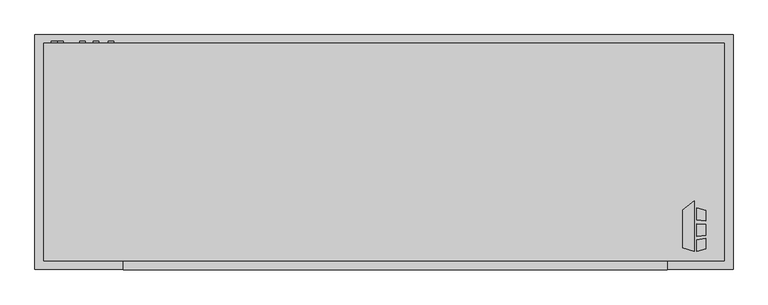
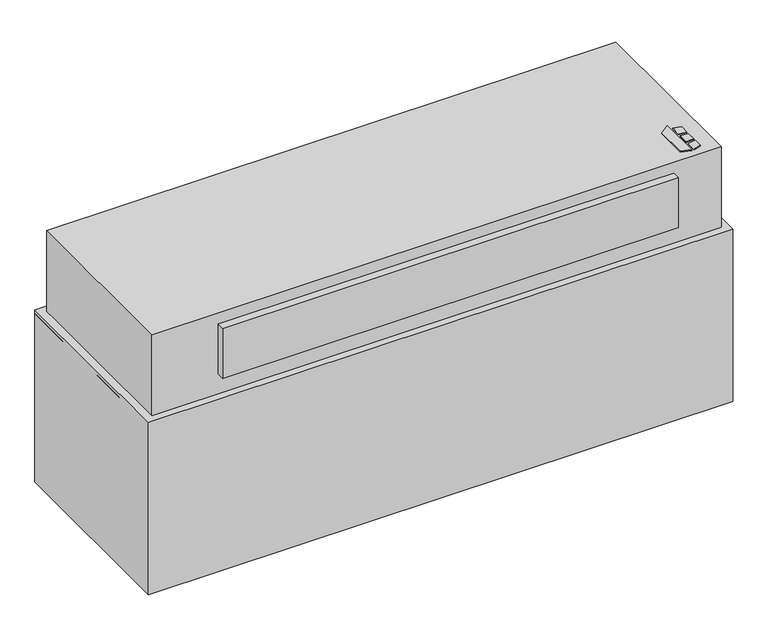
"""IFC4 building model written with IfcOpenShell, lengths in millimetres: proxy geometry, Horizontal_Telescoping_Fan_Coil_Unit_-_CBY_-_IEC_-_4-Pipe_LH_2022 : Size 12 - 277v/60Hz/1Ph - 4/1 Coil."""

from ifc_helpers import new_model, si_unit, point, frame, frame_2d, origin, origin_with_axes, place, context, project, spatial, polyline, circle_curve, trimmed, segment, composite_curve, outline, extrude, source, transform, mapped, element, save


def mechanical_equipment_633f6ef1(model_context):
    return source(origin(), model_context, "Body", "SweptSolid", [
        extrude(outline(polyline([(988.7019761, -401.0078476), (1021.2602728, -375.5705184), (1021.2602728, -517.525), (988.7019761, -507.3054201), (988.7019761, -401.0078476)])), origin_with_axes(), (0.0, 0.0, 1.0), 3.175),
        extrude(outline(polyline([(1028.0186058, -428.879852), (1028.0186058, -394.3999379), (1054.1, -402.5865115), (1054.1, -432.0822446), (1028.0186058, -428.879852)])), origin_with_axes(), (0.0, 0.0, 1.0), 3.175),
        extrude(outline(polyline([(1054.1, -510.5365115), (1028.0186058, -517.525), (1028.0186058, -484.3036996), (1054.1, -480.7618564), (1054.1, -510.5365115)])), origin_with_axes(), (0.0, 0.0, 1.0), 3.175),
        extrude(outline(polyline([(1054.1, -441.1638277), (1054.1, -472.413983), (1028.0186058, -475.155248), (1028.0186058, -439.2975378), (1054.1, -441.1638277)])), origin_with_axes(), (0.0, 0.0, 1.0), 3.175),
        extrude(outline(composite_curve([segment(trimmed(circle_curve(frame_2d((-60.325, -612.775)), 7.9375), [point((-60.325, -604.8375))], [point((-60.325, -620.7125))], False, "CARTESIAN"), True, "CONTINUOUS"), segment(trimmed(circle_curve(frame_2d((-60.325, -612.775)), 7.9375), [point((-60.325, -620.7125))], [point((-60.325, -604.8375))], False, "CARTESIAN"), True, "CONTINUOUS")], self_intersect=False)), frame((0.0, 66.675, 0.0), z_axis=(0.0, 1.0, 0.0), x_axis=(0.0, 0.0, 1.0)), (0.0, 0.0, 1.0), 6.35),
        extrude(outline(composite_curve([segment(trimmed(circle_curve(frame_2d((-95.25, -654.05)), 7.9375), [point((-95.25, -646.1125))], [point((-95.25, -661.9875))], False, "CARTESIAN"), True, "CONTINUOUS"), segment(trimmed(circle_curve(frame_2d((-95.25, -654.05)), 7.9375), [point((-95.25, -661.9875))], [point((-95.25, -646.1125))], False, "CARTESIAN"), True, "CONTINUOUS")], self_intersect=False)), frame((0.0, 66.675, 0.0), z_axis=(0.0, 1.0, 0.0), x_axis=(0.0, 0.0, 1.0)), (0.0, 0.0, 1.0), 6.35),
        extrude(outline(composite_curve([segment(trimmed(circle_curve(frame_2d((-44.45, -692.15)), 7.9375), [point((-44.45, -684.2125))], [point((-44.45, -700.0875))], False, "CARTESIAN"), True, "CONTINUOUS"), segment(trimmed(circle_curve(frame_2d((-44.45, -692.15)), 7.9375), [point((-44.45, -700.0875))], [point((-44.45, -684.2125))], False, "CARTESIAN"), True, "CONTINUOUS")], self_intersect=False)), frame((0.0, 66.675, 0.0), z_axis=(0.0, 1.0, 0.0), x_axis=(0.0, 0.0, 1.0)), (0.0, 0.0, 1.0), 6.35),
        extrude(outline(composite_curve([segment(trimmed(circle_curve(frame_2d((-85.725, -771.525)), 7.9375), [point((-85.725, -763.5875))], [point((-85.725, -779.4625))], False, "CARTESIAN"), True, "CONTINUOUS"), segment(trimmed(circle_curve(frame_2d((-85.725, -771.525)), 7.9375), [point((-85.725, -779.4625))], [point((-85.725, -763.5875))], False, "CARTESIAN"), True, "CONTINUOUS")], self_intersect=False)), frame((0.0, 66.675, 0.0), z_axis=(0.0, 1.0, 0.0), x_axis=(0.0, 0.0, 1.0)), (0.0, 0.0, 1.0), 6.35),
        extrude(outline(composite_curve([segment(trimmed(circle_curve(frame_2d((-260.35, -755.65)), 9.525), [point((-260.35, -746.125))], [point((-260.35, -765.175))], False, "CARTESIAN"), True, "CONTINUOUS"), segment(trimmed(circle_curve(frame_2d((-260.35, -755.65)), 9.525), [point((-260.35, -765.175))], [point((-260.35, -746.125))], False, "CARTESIAN"), True, "CONTINUOUS")], self_intersect=False)), frame((0.0, 66.675, 0.0), z_axis=(0.0, 1.0, 0.0), x_axis=(0.0, 0.0, 1.0)), (0.0, 0.0, 1.0), 6.35),
        extrude(outline(polyline([(1130.3, 90.4875), (1130.3, -566.7375), (-825.5, -566.7375), (-825.5, 90.4875), (1130.3, 90.4875)])), frame((0.0, 0.0, -895.35), z_axis=(0.0, 0.0, 1.0), x_axis=(1.0, 0.0, 0.0)), (0.0, 0.0, 1.0), 609.6),
        extrude(outline(polyline([(1130.3, 90.4875), (1130.3, -566.7375), (-825.5, -566.7375), (-825.5, 90.4875), (1130.3, 90.4875)])), frame((0.0, 0.0, -311.15), z_axis=(0.0, 0.0, 1.0), x_axis=(1.0, 0.0, 0.0)), (0.0, 0.0, 1.0), 12.7),
        extrude(outline(polyline([(1130.3, 90.4875), (1130.3, -566.7375), (-825.5, -566.7375), (-825.5, 90.4875), (1130.3, 90.4875)])), frame((0.0, 0.0, -292.1), z_axis=(0.0, 0.0, 1.0), x_axis=(1.0, 0.0, 0.0)), (0.0, 0.0, 1.0), 6.35),
        extrude(outline(polyline([(1104.9, 65.0875), (1104.9, -541.3375), (-800.1, -541.3375), (-800.1, 65.0875), (1104.9, 65.0875)])), frame((0.0, 0.0, -298.45), z_axis=(0.0, 0.0, 1.0), x_axis=(1.0, 0.0, 0.0)), (0.0, 0.0, 1.0), 6.35),
        extrude(outline(polyline([(946.15, -568.325), (-577.85, -568.325), (-577.85, -542.925), (946.15, -542.925), (946.15, -568.325)])), frame((0.0, 0.0, -215.9), z_axis=(0.0, 0.0, 1.0), x_axis=(1.0, 0.0, 0.0)), (0.0, 0.0, 1.0), 177.8),
        extrude(outline(polyline([(-800.1, 66.675), (1104.9, 66.675), (1104.9, -542.925), (-800.1, -542.925), (-800.1, 66.675)])), frame((0.0, 0.0, -285.75), z_axis=(0.0, 0.0, 1.0), x_axis=(1.0, 0.0, 0.0)), (0.0, 0.0, 1.0), 285.75),
        extrude(outline(polyline([(939.8, -9.525), (939.8, -263.525), (-635.0, -263.525), (-635.0, -9.525), (939.8, -9.525)])), frame((0.0, 0.0, -317.5), z_axis=(0.0, 0.0, 1.0), x_axis=(1.0, 0.0, 0.0)), (0.0, 0.0, 1.0), 6.35),
    ])


if __name__ == "__main__":
    model = new_model("IFC4")
    model_context = context("Model", 3, world=origin())
    ifc_project = project(units=[si_unit("LENGTHUNIT", "METRE", prefix="MILLI")], contexts=[model_context])
    site = spatial("IfcSite", under=ifc_project)
    building = spatial("IfcBuilding", under=site)
    placement = place(None, origin())
    mechanical_equipment_shape = mechanical_equipment_633f6ef1(model_context)
    element("IfcBuildingElementProxy", 1, Name="Horizontal_Telescoping_Fan_Coil_Unit_-_CBY_-_IEC_-_4-Pipe_LH_2022 : Size 12 - 277v/60Hz/1Ph - 4/1 Coil", ObjectType="Horizontal_Telescoping_Fan_Coil_Unit_-_CBY_-_IEC_-_4-Pipe_LH_2022 : Size 12 - 277v/60Hz/1Ph - 4/1 Coil", at=placement, inside=building, context=model_context, shape_type="MappedRepresentation", body=[
        mapped(mechanical_equipment_shape, transform((0.0, 0.0, 0.0), x_axis=(1.0, 0.0, 0.0), y_axis=(0.0, 1.0, 0.0), z_axis=(0.0, 0.0, 1.0))),
    ])
    save(model, "model.ifc")
